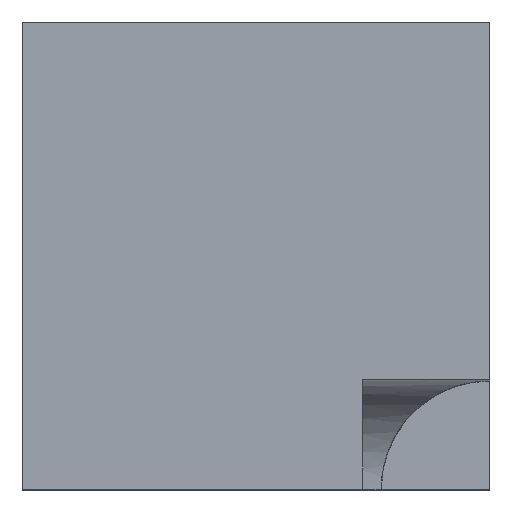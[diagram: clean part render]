
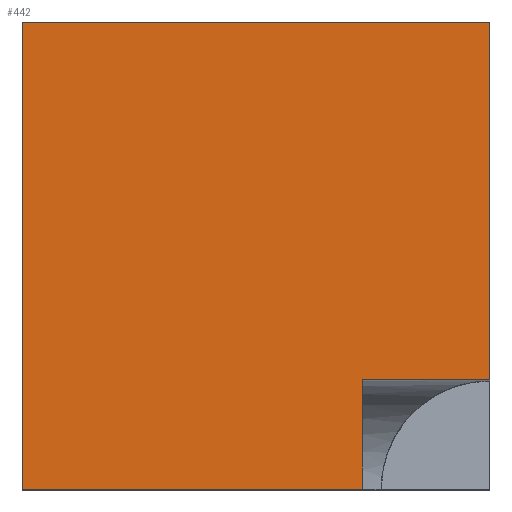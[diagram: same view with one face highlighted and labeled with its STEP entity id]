
A CAD part, top view. The second image highlights one B-rep face of the part: STEP entity #442.
In plain terms, the highlighted planar face has unit normal (0, 0, 1).
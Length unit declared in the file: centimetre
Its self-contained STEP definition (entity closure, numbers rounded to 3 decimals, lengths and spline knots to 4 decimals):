
#4 = ORIENTED_EDGE ( 'NONE', *, *, #64, .T. ) ;
#7 = CARTESIAN_POINT ( 'NONE',  ( 1000., 1000., 1000. ) ) ;
#27 = LINE ( 'NONE', #227, #338 ) ;
#30 = ORIENTED_EDGE ( 'NONE', *, *, #278, .T. ) ;
#43 = LINE ( 'NONE', #431, #816 ) ;
#57 = VERTEX_POINT ( 'NONE', #103 ) ;
#64 = EDGE_CURVE ( 'NONE', #57, #379, #43, .T. ) ;
#103 = CARTESIAN_POINT ( 'NONE',  ( 1000., 235.2724, 1000. ) ) ;
#168 = LINE ( 'NONE', #214, #248 ) ;
#201 = DIRECTION ( 'NONE',  ( 1., 0., 0. ) ) ;
#214 = CARTESIAN_POINT ( 'NONE',  ( 0., 0., 1000. ) ) ;
#227 = CARTESIAN_POINT ( 'NONE',  ( 727.9757, 235.2724, 1000. ) ) ;
#248 = VECTOR ( 'NONE', #726, 100. ) ;
#272 = VERTEX_POINT ( 'NONE', #326 ) ;
#275 = ORIENTED_EDGE ( 'NONE', *, *, #568, .T. ) ;
#278 = EDGE_CURVE ( 'NONE', #272, #496, #398, .T. ) ;
#279 = VERTEX_POINT ( 'NONE', #587 ) ;
#280 = DIRECTION ( 'NONE',  ( -1., 0., 0. ) ) ;
#285 = VECTOR ( 'NONE', #452, 100. ) ;
#301 = DIRECTION ( 'NONE',  ( 0., 1., 0. ) ) ;
#314 = VERTEX_POINT ( 'NONE', #337 ) ;
#317 = CARTESIAN_POINT ( 'NONE',  ( 727.9757, 0., 1000. ) ) ;
#319 = ORIENTED_EDGE ( 'NONE', *, *, #621, .T. ) ;
#324 = ORIENTED_EDGE ( 'NONE', *, *, #685, .F. ) ;
#325 = CARTESIAN_POINT ( 'NONE',  ( 0., 0., 1000. ) ) ;
#326 = CARTESIAN_POINT ( 'NONE',  ( 727.9757, 0., 1000. ) ) ;
#337 = CARTESIAN_POINT ( 'NONE',  ( 0., 0., 1000. ) ) ;
#338 = VECTOR ( 'NONE', #723, 100. ) ;
#349 = VECTOR ( 'NONE', #280, 100. ) ;
#379 = VERTEX_POINT ( 'NONE', #7 ) ;
#398 = LINE ( 'NONE', #317, #285 ) ;
#401 = CARTESIAN_POINT ( 'NONE',  ( 0., 1000., 1000. ) ) ;
#407 = CARTESIAN_POINT ( 'NONE',  ( 0., 1000., 1000. ) ) ;
#431 = CARTESIAN_POINT ( 'NONE',  ( 1000., 1000., 1000. ) ) ;
#441 = DIRECTION ( 'NONE',  ( 0., 0., 1. ) ) ;
#442 = ADVANCED_FACE ( 'NONE', ( #576 ), #638, .T. ) ;
#452 = DIRECTION ( 'NONE',  ( 0., 1., 0. ) ) ;
#491 = AXIS2_PLACEMENT_3D ( 'NONE', #325, #441, #201 ) ;
#496 = VERTEX_POINT ( 'NONE', #586 ) ;
#530 = LINE ( 'NONE', #407, #349 ) ;
#568 = EDGE_CURVE ( 'NONE', #279, #314, #719, .T. ) ;
#576 = FACE_OUTER_BOUND ( 'NONE', #713, .T. ) ;
#586 = CARTESIAN_POINT ( 'NONE',  ( 727.9757, 235.2724, 1000. ) ) ;
#587 = CARTESIAN_POINT ( 'NONE',  ( 0., 1000., 1000. ) ) ;
#621 = EDGE_CURVE ( 'NONE', #379, #279, #530, .T. ) ;
#638 = PLANE ( 'NONE',  #491 ) ;
#653 = DIRECTION ( 'NONE',  ( 0., -1., 0. ) ) ;
#656 = EDGE_CURVE ( 'NONE', #314, #272, #168, .T. ) ;
#662 = ORIENTED_EDGE ( 'NONE', *, *, #656, .T. ) ;
#685 = EDGE_CURVE ( 'NONE', #57, #496, #27, .T. ) ;
#713 = EDGE_LOOP ( 'NONE', ( #324, #4, #319, #275, #662, #30 ) ) ;
#719 = LINE ( 'NONE', #401, #817 ) ;
#723 = DIRECTION ( 'NONE',  ( -1., 0., 0. ) ) ;
#726 = DIRECTION ( 'NONE',  ( 1., 0., 0. ) ) ;
#816 = VECTOR ( 'NONE', #301, 100. ) ;
#817 = VECTOR ( 'NONE', #653, 100. ) ;
